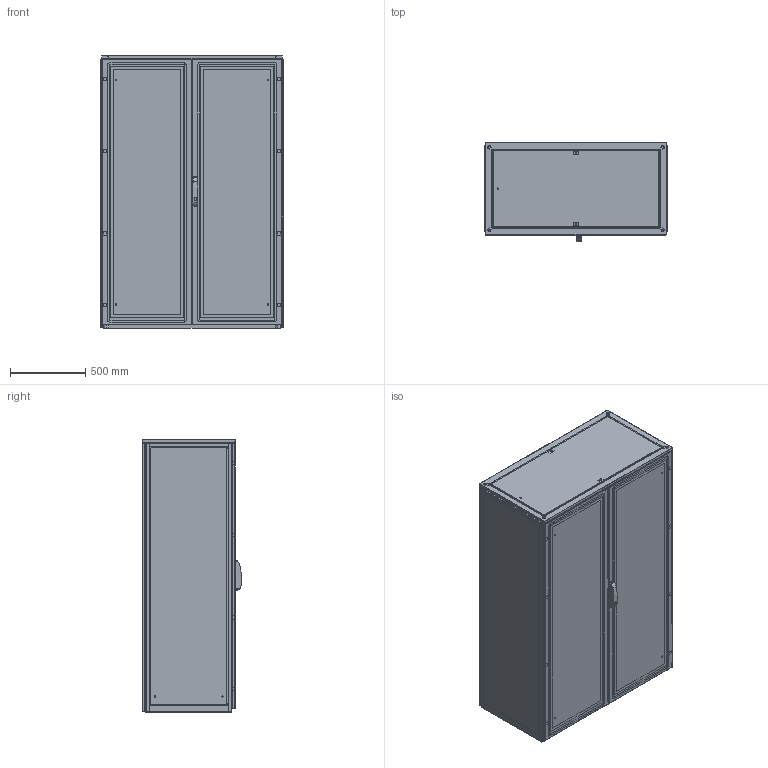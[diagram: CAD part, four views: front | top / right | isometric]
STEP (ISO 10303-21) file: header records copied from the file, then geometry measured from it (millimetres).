
FILE_DESCRIPTION(/* description */ ('STEP AP214'),/* implementation_level */ '2;1');
FILE_NAME(/* name */ 'ENUX121806PR -LOD350',/* time_stamp */ '2025-10-06T09:26:24+02:00',/* author */ ('License CC BY-ND 4.0'),/* organization */ ('CADENAS'),/* preprocessor_version */ 'ST-DEVELOPER v19.3',/* originating_system */ 'PARTsolutions',/* authorisation */ ' ');
FILE_SCHEMA (('AUTOMOTIVE_DESIGN {1 0 10303 214 3 1 1}'));
Length unit declared in the file: millimetre
Products named in the file (11): ENUX121806PR  -LOD350; ENUX121806PR  -LOD3501; ENUX121806PR  -LOD3507; ENUX121806PR  -LOD3502; ENUX121806PR  -LOD35011; ENUX121806PR  -LOD3503; ENUX121806PR  -LOD3508; ENUX121806PR  -LOD3505; ENUX121806PR  -LOD3504; ENUX121806PR  -LOD35010; ENUX121806PR  -LOD3509
Assembly tree (19 placements, depth 2):
  ENUX121806PR  -LOD350
    ENUX121806PR  -LOD3501
    ENUX121806PR  -LOD3507  x2
    ENUX121806PR  -LOD3502
    ENUX121806PR  -LOD35011
    ENUX121806PR  -LOD3503
    ENUX121806PR  -LOD3508
    ENUX121806PR  -LOD3505
    ENUX121806PR  -LOD3504
    ENUX121806PR  -LOD35010  x4
    ENUX121806PR  -LOD3509  x6
Bounding box: 1212 x 657 x 1808.5 mm (x, y, z)
Volume: 28779616.9 mm3; surface area: 23375949.5 mm2
Topology: 19 solids, 26 shells, 1608 faces, 4345 edges, 2844 vertices
Faces by surface type: plane 974, cylinder 584, torus 30, cone 12, sphere 8
Full cylindrical faces by diameter (mm): 6 x15, 9 x13, 12 x4, 14 x2, 17 x2, 28 x2
Entity records: 36598 total; most frequent: CARTESIAN_POINT 6697, DIRECTION 6215, ORIENTED_EDGE 6118, EDGE_CURVE 3059, AXIS2_PLACEMENT_3D 2073, LINE 2069, VECTOR 2069, VERTEX_POINT 2022
